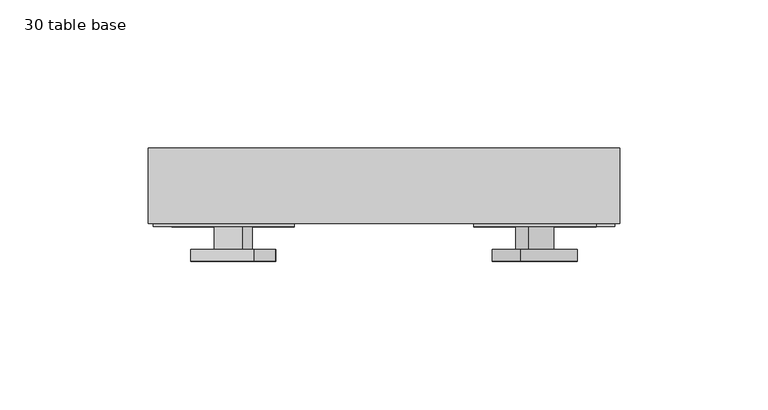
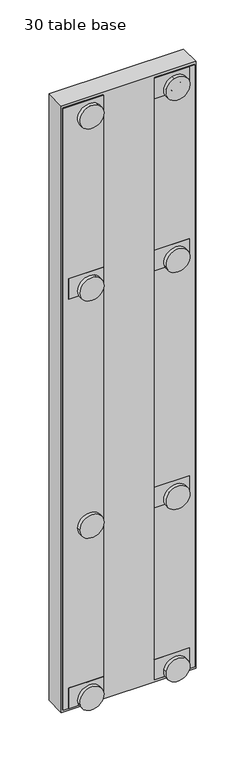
"""IFC4 building model written with IfcOpenShell, lengths in millimetres: proxy geometry, 30 table base."""

from ifc_helpers import new_model, si_unit, frame, origin, place, context, project, spatial, polyline, circle_curve, outline, extrude, source, transform, mapped, element, save
from ifc_brep_helpers import plane_surface, cylinder_surface, advanced_brep


def proxy_30_table_base_40ca9fa9(model_context):
    return source(origin(), model_context, "Body", "SolidModel", [
        extrude(outline(polyline([(109.5375, -1.016), (109.5375, 18.034), (150.8125, 18.034), (150.8125, -1.016), (109.5375, -1.016)])), frame((0.0, 0.0, -28.527375), z_axis=(0.0, 0.0, 1.0), x_axis=(1.0, 0.0, 0.0)), (0.0, 0.0, 1.0), 25.4),
        extrude(outline(polyline([(7.9375, 18.034), (49.2125, 18.034), (49.2125, -1.016), (7.9375, -1.016), (7.9375, 18.034)])), frame((0.0, 0.0, -242.839875), z_axis=(0.0, 0.0, 1.0), x_axis=(1.0, 0.0, 0.0)), (0.0, 0.0, 1.0), 25.4),
        extrude(outline(polyline([(7.9375, 18.034), (49.2125, 18.034), (49.2125, -1.016), (7.9375, -1.016), (7.9375, 18.034)])), frame((0.0, 0.0, -752.522625), z_axis=(0.0, 0.0, 1.0), x_axis=(1.0, 0.0, 0.0)), (0.0, 0.0, 1.0), 25.4),
        extrude(outline(polyline([(109.5375, -1.016), (109.5375, 18.034), (150.8125, 18.034), (150.8125, -1.016), (109.5375, -1.016)])), frame((0.0, 0.0, -242.839875), z_axis=(0.0, 0.0, 1.0), x_axis=(1.0, 0.0, 0.0)), (0.0, 0.0, 1.0), 25.4),
        extrude(outline(polyline([(1.5875, 24.384), (49.2125, 24.384), (49.2125, -1.016), (1.5875, -1.016), (1.5875, 24.384)])), frame((0.0, 0.0, -752.522625), z_axis=(0.0, 0.0, 1.0), x_axis=(1.0, 0.0, 0.0)), (0.0, 0.0, 1.0), 749.39525),
        extrude(outline(polyline([(109.5375, -1.016), (109.5375, 18.034), (150.8125, 18.034), (150.8125, -1.016), (109.5375, -1.016)])), frame((0.0, 0.0, -538.114875), z_axis=(0.0, 0.0, 1.0), x_axis=(1.0, 0.0, 0.0)), (0.0, 0.0, 1.0), 25.4),
        extrude(outline(polyline([(7.9375, 18.034), (49.2125, 18.034), (49.2125, -1.016), (7.9375, -1.016), (7.9375, 18.034)])), frame((0.0, 0.0, -538.114875), z_axis=(0.0, 0.0, 1.0), x_axis=(1.0, 0.0, 0.0)), (0.0, 0.0, 1.0), 25.4),
        extrude(outline(polyline([(109.5375, -1.016), (109.5375, 18.034), (150.8125, 18.034), (150.8125, -1.016), (109.5375, -1.016)])), frame((0.0, 0.0, -752.522625), z_axis=(0.0, 0.0, 1.0), x_axis=(1.0, 0.0, 0.0)), (0.0, 0.0, 1.0), 25.4),
        extrude(outline(polyline([(7.9375, 18.034), (49.2125, 18.034), (49.2125, -1.016), (7.9375, -1.016), (7.9375, 18.034)])), frame((0.0, 0.0, -28.527375), z_axis=(0.0, 0.0, 1.0), x_axis=(1.0, 0.0, 0.0)), (0.0, 0.0, 1.0), 25.4),
        extrude(outline(polyline([(109.5375, 24.384), (157.1625, 24.384), (157.1625, -1.016), (109.5375, -1.016), (109.5375, 24.384)])), frame((0.0, 0.0, -752.522625), z_axis=(0.0, 0.0, 1.0), x_axis=(1.0, 0.0, 0.0)), (0.0, 0.0, 1.0), 749.39525),
        advanced_brep(
        [(25.4874004, -0.79375, -21.3761792), (25.4874004, -8.73125, -21.3761792), (31.6625996, -8.73125, -10.2785708), (31.6625996, -0.79375, -10.2785708), (21.6279008, -8.73125, -28.3121845), (21.6279008, -12.7, -28.3121845), (35.5220992, -12.7, -3.3425655), (35.5220992, -8.73125, -3.3425655)],
        [
            (0, 1),
            (1, 2, circle_curve(frame((28.575, -8.73125, -15.827375), z_axis=(0.0, 0.9999999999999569, 0.0), x_axis=(-0.4862361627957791, 0.0, -0.8738274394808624)), 6.35)),
            (2, 3),
            (3, 0, circle_curve(frame((28.575, -0.79375, -15.827375), z_axis=(0.0, -0.9999999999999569, 0.0), x_axis=(-0.4862361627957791, 0.0, -0.8738274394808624)), 6.35)),
            (4, 5),
            (5, 6, circle_curve(frame((28.575, -12.7, -15.827375), z_axis=(0.0, 0.9999999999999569, 0.0), x_axis=(-0.4862361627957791, 0.0, -0.8738274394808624)), 14.2875)),
            (6, 7),
            (7, 4, circle_curve(frame((28.575, -8.73125, -15.827375), z_axis=(0.0, -0.9999999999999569, 0.0), x_axis=(-0.4862361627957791, 0.0, -0.8738274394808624)), 14.2875)),
            (7, 4, circle_curve(frame((28.575, -8.73125, -15.827375), z_axis=(0.0, 0.9999999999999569, 0.0), x_axis=(-0.4862361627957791, 0.0, -0.8738274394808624)), 14.2875)),
            (1, 2, circle_curve(frame((28.575, -8.73125, -15.827375), z_axis=(0.0, -0.9999999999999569, 0.0), x_axis=(-0.4862361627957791, 0.0, -0.8738274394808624)), 6.35)),
            (6, 5, circle_curve(frame((28.575, -12.7, -15.827375), z_axis=(0.0, 0.9999999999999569, 0.0), x_axis=(-0.4862361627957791, 0.0, -0.8738274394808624)), 14.2875)),
            (3, 0, circle_curve(frame((28.575, -0.79375, -15.827375), z_axis=(0.0, 0.9999999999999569, 0.0), x_axis=(-0.4862361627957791, 0.0, -0.8738274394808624)), 6.35)),
        ],
        [
            cylinder_surface(frame((28.575, -1.5875, -15.827375), z_axis=(0.0, -0.9999999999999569, 0.0), x_axis=(-0.4862361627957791, 0.0, -0.8738274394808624)), 6.35),
            cylinder_surface(frame((28.575, -9.525, -15.827375), z_axis=(0.0, -0.9999999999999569, 0.0), x_axis=(-0.4862361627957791, 0.0, -0.8738274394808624)), 14.2875),
            plane_surface(frame((22.0138508, -8.73125, -27.618584), z_axis=(0.0, 0.9999999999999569, 0.0), x_axis=(0.8738274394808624, 0.0, -0.4862361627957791))),
            plane_surface(frame((26.2593003, -0.79375, -19.9889782), z_axis=(0.0, 0.9999999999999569, 0.0), x_axis=(0.8738274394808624, 0.0, -0.4862361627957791))),
            plane_surface(frame((25.6803753, -12.7, -21.029379), z_axis=(0.0, -0.9999999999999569, 0.0), x_axis=(-0.8738274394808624, 0.0, 0.4862361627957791))),
        ],
        [
            (0, [[1, 2, 3, 4]]),
            (1, [[5, 6, 7, 8]]),
            (2, [[9, -8], [10, -2]]),
            (1, [[-5, -9, -7, 11]]),
            (3, [[12, -4]]),
            (0, [[-1, -12, -3, -10]]),
            (4, [[-6, -11]]),
        ],
    ),
        advanced_brep(
        [(135.2608779, -0.79375, -521.6127248), (135.2608779, -8.73125, -521.6127248), (125.0891221, -8.73125, -529.2170252), (125.0891221, -0.79375, -529.2170252), (141.6182253, -8.73125, -516.8600371), (141.6182253, -12.7, -516.8600371), (118.7317747, -12.7, -533.9697129), (118.7317747, -8.73125, -533.9697129)],
        [
            (0, 1),
            (1, 2, circle_curve(frame((130.175, -8.73125, -525.414875), z_axis=(0.0, 0.9999999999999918, 0.0), x_axis=(0.8009256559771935, 0.0, 0.5987638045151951)), 6.35)),
            (2, 3),
            (3, 0, circle_curve(frame((130.175, -0.79375, -525.414875), z_axis=(0.0, -0.9999999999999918, 0.0), x_axis=(0.8009256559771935, 0.0, 0.5987638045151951)), 6.35)),
            (4, 5),
            (5, 6, circle_curve(frame((130.175, -12.7, -525.414875), z_axis=(0.0, 0.9999999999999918, 0.0), x_axis=(0.8009256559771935, 0.0, 0.5987638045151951)), 14.2875)),
            (6, 7),
            (7, 4, circle_curve(frame((130.175, -8.73125, -525.414875), z_axis=(0.0, -0.9999999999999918, 0.0), x_axis=(0.8009256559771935, 0.0, 0.5987638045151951)), 14.2875)),
            (7, 4, circle_curve(frame((130.175, -8.73125, -525.414875), z_axis=(0.0, 0.9999999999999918, 0.0), x_axis=(0.8009256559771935, 0.0, 0.5987638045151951)), 14.2875)),
            (1, 2, circle_curve(frame((130.175, -8.73125, -525.414875), z_axis=(0.0, -0.9999999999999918, 0.0), x_axis=(0.8009256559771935, 0.0, 0.5987638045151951)), 6.35)),
            (6, 5, circle_curve(frame((130.175, -12.7, -525.414875), z_axis=(0.0, 0.9999999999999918, 0.0), x_axis=(0.8009256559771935, 0.0, 0.5987638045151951)), 14.2875)),
            (3, 0, circle_curve(frame((130.175, -0.79375, -525.414875), z_axis=(0.0, 0.9999999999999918, 0.0), x_axis=(0.8009256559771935, 0.0, 0.5987638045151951)), 6.35)),
        ],
        [
            cylinder_surface(frame((130.175, -1.5875, -525.414875), z_axis=(0.0, -0.9999999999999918, 0.0), x_axis=(0.8009256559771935, 0.0, 0.5987638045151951)), 6.35),
            cylinder_surface(frame((130.175, -9.525, -525.414875), z_axis=(0.0, -0.9999999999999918, 0.0), x_axis=(0.8009256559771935, 0.0, 0.5987638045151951)), 14.2875),
            plane_surface(frame((140.9824906, -8.73125, -517.3353059), z_axis=(0.0, 0.9999999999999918, 0.0), x_axis=(-0.5987638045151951, 0.0, 0.8009256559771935))),
            plane_surface(frame((133.9894084, -0.79375, -522.5632624), z_axis=(0.0, 0.9999999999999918, 0.0), x_axis=(-0.5987638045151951, 0.0, 0.8009256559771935))),
            plane_surface(frame((134.9430105, -12.7, -521.8503592), z_axis=(0.0, -0.9999999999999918, 0.0), x_axis=(0.5987638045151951, 0.0, -0.8009256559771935))),
        ],
        [
            (0, [[1, 2, 3, 4]]),
            (1, [[5, 6, 7, 8]]),
            (2, [[9, -8], [10, -2]]),
            (1, [[-5, -9, -7, 11]]),
            (3, [[12, -4]]),
            (0, [[-1, -12, -3, -10]]),
            (4, [[-6, -11]]),
        ],
    ),
        advanced_brep(
        [(22.3889075, -0.79375, -741.2560681), (22.3889075, -8.73125, -741.2560681), (34.7610925, -8.73125, -738.3891819), (34.7610925, -0.79375, -738.3891819), (14.6562918, -8.73125, -743.0478719), (14.6562918, -12.7, -743.0478719), (42.4937082, -12.7, -736.5973781), (42.4937082, -8.73125, -736.5973781)],
        [
            (0, 1),
            (1, 2, circle_curve(frame((28.575, -8.73125, -739.822625), z_axis=(0.0, 0.9999999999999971, 0.0), x_axis=(-0.9741878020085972, 0.0, -0.22573906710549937)), 6.35)),
            (2, 3),
            (3, 0, circle_curve(frame((28.575, -0.79375, -739.822625), z_axis=(0.0, -0.9999999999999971, 0.0), x_axis=(-0.9741878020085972, 0.0, -0.22573906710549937)), 6.35)),
            (4, 5),
            (5, 6, circle_curve(frame((28.575, -12.7, -739.822625), z_axis=(0.0, 0.9999999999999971, 0.0), x_axis=(-0.9741878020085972, 0.0, -0.22573906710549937)), 14.2875)),
            (6, 7),
            (7, 4, circle_curve(frame((28.575, -8.73125, -739.822625), z_axis=(0.0, -0.9999999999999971, 0.0), x_axis=(-0.9741878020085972, 0.0, -0.22573906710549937)), 14.2875)),
            (7, 4, circle_curve(frame((28.575, -8.73125, -739.822625), z_axis=(0.0, 0.9999999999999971, 0.0), x_axis=(-0.9741878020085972, 0.0, -0.22573906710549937)), 14.2875)),
            (1, 2, circle_curve(frame((28.575, -8.73125, -739.822625), z_axis=(0.0, -0.9999999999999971, 0.0), x_axis=(-0.9741878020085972, 0.0, -0.22573906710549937)), 6.35)),
            (6, 5, circle_curve(frame((28.575, -12.7, -739.822625), z_axis=(0.0, 0.9999999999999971, 0.0), x_axis=(-0.9741878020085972, 0.0, -0.22573906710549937)), 14.2875)),
            (3, 0, circle_curve(frame((28.575, -0.79375, -739.822625), z_axis=(0.0, 0.9999999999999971, 0.0), x_axis=(-0.9741878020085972, 0.0, -0.22573906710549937)), 6.35)),
        ],
        [
            cylinder_surface(frame((28.575, -1.5875, -739.822625), z_axis=(0.0, -0.9999999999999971, 0.0), x_axis=(-0.9741878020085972, 0.0, -0.22573906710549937)), 6.35),
            cylinder_surface(frame((28.575, -9.525, -739.822625), z_axis=(0.0, -0.9999999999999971, 0.0), x_axis=(-0.9741878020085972, 0.0, -0.22573906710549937)), 14.2875),
            plane_surface(frame((15.4295533, -8.73125, -742.8686915), z_axis=(0.0, 0.9999999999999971, 0.0), x_axis=(0.22573906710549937, 0.0, -0.9741878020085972))),
            plane_surface(frame((23.9354306, -0.79375, -740.8977073), z_axis=(0.0, 0.9999999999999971, 0.0), x_axis=(0.22573906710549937, 0.0, -0.9741878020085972))),
            plane_surface(frame((22.7755382, -12.7, -741.1664779), z_axis=(0.0, -0.9999999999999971, 0.0), x_axis=(-0.22573906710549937, 0.0, 0.9741878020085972))),
        ],
        [
            (0, [[1, 2, 3, 4]]),
            (1, [[5, 6, 7, 8]]),
            (2, [[9, -8], [10, -2]]),
            (1, [[-5, -9, -7, 11]]),
            (3, [[12, -4]]),
            (0, [[-1, -12, -3, -10]]),
            (4, [[-6, -11]]),
        ],
    ),
        advanced_brep(
        [(132.3534997, -0.79375, -21.7919906), (132.3534997, -8.73125, -21.7919906), (127.9965003, -8.73125, -9.8627594), (127.9965003, -0.79375, -9.8627594), (135.0766244, -8.73125, -29.2477601), (135.0766244, -12.7, -29.2477601), (125.2733756, -12.7, -2.4069899), (125.2733756, -8.73125, -2.4069899)],
        [
            (0, 1),
            (1, 2, circle_curve(frame((130.175, -8.73125, -15.827375), z_axis=(0.0, 1.0000000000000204, 0.0), x_axis=(0.34307082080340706, 0.0, -0.9393095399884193)), 6.35)),
            (2, 3),
            (3, 0, circle_curve(frame((130.175, -0.79375, -15.827375), z_axis=(0.0, -1.0000000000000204, 0.0), x_axis=(0.34307082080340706, 0.0, -0.9393095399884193)), 6.35)),
            (4, 5),
            (5, 6, circle_curve(frame((130.175, -12.7, -15.827375), z_axis=(0.0, 1.0000000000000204, 0.0), x_axis=(0.34307082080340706, 0.0, -0.9393095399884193)), 14.2875)),
            (6, 7),
            (7, 4, circle_curve(frame((130.175, -8.73125, -15.827375), z_axis=(0.0, -1.0000000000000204, 0.0), x_axis=(0.34307082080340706, 0.0, -0.9393095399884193)), 14.2875)),
            (7, 4, circle_curve(frame((130.175, -8.73125, -15.827375), z_axis=(0.0, 1.0000000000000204, 0.0), x_axis=(0.34307082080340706, 0.0, -0.9393095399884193)), 14.2875)),
            (1, 2, circle_curve(frame((130.175, -8.73125, -15.827375), z_axis=(0.0, -1.0000000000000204, 0.0), x_axis=(0.34307082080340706, 0.0, -0.9393095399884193)), 6.35)),
            (6, 5, circle_curve(frame((130.175, -12.7, -15.827375), z_axis=(0.0, 1.0000000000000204, 0.0), x_axis=(0.34307082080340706, 0.0, -0.9393095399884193)), 14.2875)),
            (3, 0, circle_curve(frame((130.175, -0.79375, -15.827375), z_axis=(0.0, 1.0000000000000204, 0.0), x_axis=(0.34307082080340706, 0.0, -0.9393095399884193)), 6.35)),
        ],
        [
            cylinder_surface(frame((130.175, -1.5875, -15.827375), z_axis=(0.0, -1.0000000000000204, 0.0), x_axis=(0.34307082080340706, 0.0, -0.9393095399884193)), 6.35),
            cylinder_surface(frame((130.175, -9.525, -15.827375), z_axis=(0.0, -1.0000000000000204, 0.0), x_axis=(0.34307082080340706, 0.0, -0.9393095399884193)), 14.2875),
            plane_surface(frame((134.8043119, -8.73125, -28.5021831), z_axis=(0.0, 1.0000000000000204, 0.0), x_axis=(0.9393095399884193, 0.0, 0.34307082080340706))),
            plane_surface(frame((131.8088748, -0.79375, -20.3008367), z_axis=(0.0, 1.0000000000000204, 0.0), x_axis=(0.9393095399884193, 0.0, 0.34307082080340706))),
            plane_surface(frame((132.2173435, -12.7, -21.4192021), z_axis=(0.0, -1.0000000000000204, 0.0), x_axis=(-0.9393095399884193, 0.0, -0.34307082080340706))),
        ],
        [
            (0, [[1, 2, 3, 4]]),
            (1, [[5, 6, 7, 8]]),
            (2, [[9, -8], [10, -2]]),
            (1, [[-5, -9, -7, 11]]),
            (3, [[12, -4]]),
            (0, [[-1, -12, -3, -10]]),
            (4, [[-6, -11]]),
        ],
    ),
        advanced_brep(
        [(30.9865519, -0.79375, -224.2656161), (30.9865519, -8.73125, -224.2656161), (26.1634481, -8.73125, -236.0141339), (26.1634481, -0.79375, -236.0141339), (34.0009918, -8.73125, -216.9227925), (34.0009918, -12.7, -216.9227925), (23.1490082, -12.7, -243.3569575), (23.1490082, -8.73125, -243.3569575)],
        [
            (0, 1),
            (1, 2, circle_curve(frame((28.575, -8.73125, -230.139875), z_axis=(0.0, 1.0000000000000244, 0.0), x_axis=(0.3797719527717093, 0.0, 0.9250801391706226)), 6.35)),
            (2, 3),
            (3, 0, circle_curve(frame((28.575, -0.79375, -230.139875), z_axis=(0.0, -1.0000000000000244, 0.0), x_axis=(0.3797719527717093, 0.0, 0.9250801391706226)), 6.35)),
            (4, 5),
            (5, 6, circle_curve(frame((28.575, -12.7, -230.139875), z_axis=(0.0, 1.0000000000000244, 0.0), x_axis=(0.3797719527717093, 0.0, 0.9250801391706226)), 14.2875)),
            (6, 7),
            (7, 4, circle_curve(frame((28.575, -8.73125, -230.139875), z_axis=(0.0, -1.0000000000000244, 0.0), x_axis=(0.3797719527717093, 0.0, 0.9250801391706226)), 14.2875)),
            (7, 4, circle_curve(frame((28.575, -8.73125, -230.139875), z_axis=(0.0, 1.0000000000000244, 0.0), x_axis=(0.3797719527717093, 0.0, 0.9250801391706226)), 14.2875)),
            (1, 2, circle_curve(frame((28.575, -8.73125, -230.139875), z_axis=(0.0, -1.0000000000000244, 0.0), x_axis=(0.3797719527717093, 0.0, 0.9250801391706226)), 6.35)),
            (6, 5, circle_curve(frame((28.575, -12.7, -230.139875), z_axis=(0.0, 1.0000000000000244, 0.0), x_axis=(0.3797719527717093, 0.0, 0.9250801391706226)), 14.2875)),
            (3, 0, circle_curve(frame((28.575, -0.79375, -230.139875), z_axis=(0.0, 1.0000000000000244, 0.0), x_axis=(0.3797719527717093, 0.0, 0.9250801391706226)), 6.35)),
        ],
        [
            cylinder_surface(frame((28.575, -1.5875, -230.139875), z_axis=(0.0, -1.0000000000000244, 0.0), x_axis=(0.3797719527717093, 0.0, 0.9250801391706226)), 6.35),
            cylinder_surface(frame((28.575, -9.525, -230.139875), z_axis=(0.0, -1.0000000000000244, 0.0), x_axis=(0.3797719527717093, 0.0, 0.9250801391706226)), 14.2875),
            plane_surface(frame((33.6995478, -8.73125, -217.6570749), z_axis=(0.0, 1.0000000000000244, 0.0), x_axis=(-0.9250801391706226, 0.0, 0.3797719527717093))),
            plane_surface(frame((30.3836639, -0.79375, -225.7341808), z_axis=(0.0, 1.0000000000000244, 0.0), x_axis=(-0.9250801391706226, 0.0, 0.3797719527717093))),
            plane_surface(frame((30.8358299, -12.7, -224.6327573), z_axis=(0.0, -1.0000000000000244, 0.0), x_axis=(0.9250801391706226, 0.0, -0.3797719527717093))),
        ],
        [
            (0, [[1, 2, 3, 4]]),
            (1, [[5, 6, 7, 8]]),
            (2, [[9, -8], [10, -2]]),
            (1, [[-5, -9, -7, 11]]),
            (3, [[12, -4]]),
            (0, [[-1, -12, -3, -10]]),
            (4, [[-6, -11]]),
        ],
    ),
        advanced_brep(
        [(136.2215906, -0.79375, -228.2004828), (136.2215906, -8.73125, -228.2004828), (124.1284094, -8.73125, -232.0792672), (124.1284094, -0.79375, -232.0792672), (143.7798289, -8.73125, -225.7762426), (143.7798289, -12.7, -225.7762426), (116.5701711, -12.7, -234.5035074), (116.5701711, -8.73125, -234.5035074)],
        [
            (0, 1),
            (1, 2, circle_curve(frame((130.175, -8.73125, -230.139875), z_axis=(0.0, 1.0000000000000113, 0.0), x_axis=(0.9522189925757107, 0.0, 0.30541609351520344)), 6.35)),
            (2, 3),
            (3, 0, circle_curve(frame((130.175, -0.79375, -230.139875), z_axis=(0.0, -1.0000000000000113, 0.0), x_axis=(0.9522189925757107, 0.0, 0.30541609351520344)), 6.35)),
            (4, 5),
            (5, 6, circle_curve(frame((130.175, -12.7, -230.139875), z_axis=(0.0, 1.0000000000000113, 0.0), x_axis=(0.9522189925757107, 0.0, 0.30541609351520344)), 14.2875)),
            (6, 7),
            (7, 4, circle_curve(frame((130.175, -8.73125, -230.139875), z_axis=(0.0, -1.0000000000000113, 0.0), x_axis=(0.9522189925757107, 0.0, 0.30541609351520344)), 14.2875)),
            (7, 4, circle_curve(frame((130.175, -8.73125, -230.139875), z_axis=(0.0, 1.0000000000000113, 0.0), x_axis=(0.9522189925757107, 0.0, 0.30541609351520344)), 14.2875)),
            (1, 2, circle_curve(frame((130.175, -8.73125, -230.139875), z_axis=(0.0, -1.0000000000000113, 0.0), x_axis=(0.9522189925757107, 0.0, 0.30541609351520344)), 6.35)),
            (6, 5, circle_curve(frame((130.175, -12.7, -230.139875), z_axis=(0.0, 1.0000000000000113, 0.0), x_axis=(0.9522189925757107, 0.0, 0.30541609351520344)), 14.2875)),
            (3, 0, circle_curve(frame((130.175, -0.79375, -230.139875), z_axis=(0.0, 1.0000000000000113, 0.0), x_axis=(0.9522189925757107, 0.0, 0.30541609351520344)), 6.35)),
        ],
        [
            cylinder_surface(frame((130.175, -1.5875, -230.139875), z_axis=(0.0, -1.0000000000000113, 0.0), x_axis=(0.9522189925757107, 0.0, 0.30541609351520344)), 6.35),
            cylinder_surface(frame((130.175, -9.525, -230.139875), z_axis=(0.0, -1.0000000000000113, 0.0), x_axis=(0.9522189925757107, 0.0, 0.30541609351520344)), 14.2875),
            plane_surface(frame((143.024005, -8.73125, -226.0186666), z_axis=(0.0, 1.0000000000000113, 0.0), x_axis=(-0.30541609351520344, 0.0, 0.9522189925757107))),
            plane_surface(frame((134.709943, -0.79375, -228.6853309), z_axis=(0.0, 1.0000000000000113, 0.0), x_axis=(-0.30541609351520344, 0.0, 0.9522189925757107))),
            plane_surface(frame((135.8436787, -12.7, -228.3216948), z_axis=(0.0, -1.0000000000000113, 0.0), x_axis=(0.30541609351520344, 0.0, -0.9522189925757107))),
        ],
        [
            (0, [[1, 2, 3, 4]]),
            (1, [[5, 6, 7, 8]]),
            (2, [[9, -8], [10, -2]]),
            (1, [[-5, -9, -7, 11]]),
            (3, [[12, -4]]),
            (0, [[-1, -12, -3, -10]]),
            (4, [[-6, -11]]),
        ],
    ),
        advanced_brep(
        [(123.9709096, -0.79375, -738.4691989), (123.9709096, -8.73125, -738.4691989), (136.3790904, -8.73125, -741.1760511), (136.3790904, -0.79375, -741.1760511), (116.2157966, -8.73125, -736.7774163), (116.2157966, -12.7, -736.7774163), (144.1342034, -12.7, -742.8678337), (144.1342034, -8.73125, -742.8678337)],
        [
            (0, 1),
            (1, 2, circle_curve(frame((130.175, -8.73125, -739.822625), z_axis=(0.0, 1.0000000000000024, 0.0), x_axis=(-0.9770221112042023, 0.0, 0.21313796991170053)), 6.35)),
            (2, 3),
            (3, 0, circle_curve(frame((130.175, -0.79375, -739.822625), z_axis=(0.0, -1.0000000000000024, 0.0), x_axis=(-0.9770221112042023, 0.0, 0.21313796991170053)), 6.35)),
            (4, 5),
            (5, 6, circle_curve(frame((130.175, -12.7, -739.822625), z_axis=(0.0, 1.0000000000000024, 0.0), x_axis=(-0.9770221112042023, 0.0, 0.21313796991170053)), 14.2875)),
            (6, 7),
            (7, 4, circle_curve(frame((130.175, -8.73125, -739.822625), z_axis=(0.0, -1.0000000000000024, 0.0), x_axis=(-0.9770221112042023, 0.0, 0.21313796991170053)), 14.2875)),
            (7, 4, circle_curve(frame((130.175, -8.73125, -739.822625), z_axis=(0.0, 1.0000000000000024, 0.0), x_axis=(-0.9770221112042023, 0.0, 0.21313796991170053)), 14.2875)),
            (1, 2, circle_curve(frame((130.175, -8.73125, -739.822625), z_axis=(0.0, -1.0000000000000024, 0.0), x_axis=(-0.9770221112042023, 0.0, 0.21313796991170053)), 6.35)),
            (6, 5, circle_curve(frame((130.175, -12.7, -739.822625), z_axis=(0.0, 1.0000000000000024, 0.0), x_axis=(-0.9770221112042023, 0.0, 0.21313796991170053)), 14.2875)),
            (3, 0, circle_curve(frame((130.175, -0.79375, -739.822625), z_axis=(0.0, 1.0000000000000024, 0.0), x_axis=(-0.9770221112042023, 0.0, 0.21313796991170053)), 6.35)),
        ],
        [
            cylinder_surface(frame((130.175, -1.5875, -739.822625), z_axis=(0.0, -1.0000000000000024, 0.0), x_axis=(-0.9770221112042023, 0.0, 0.21313796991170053)), 6.35),
            cylinder_surface(frame((130.175, -9.525, -739.822625), z_axis=(0.0, -1.0000000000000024, 0.0), x_axis=(-0.9770221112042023, 0.0, 0.21313796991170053)), 14.2875),
            plane_surface(frame((116.9913079, -8.73125, -736.9465945), z_axis=(0.0, 1.0000000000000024, 0.0), x_axis=(-0.21313796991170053, 0.0, -0.9770221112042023))),
            plane_surface(frame((125.5219322, -0.79375, -738.8075554), z_axis=(0.0, 1.0000000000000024, 0.0), x_axis=(-0.21313796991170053, 0.0, -0.9770221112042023))),
            plane_surface(frame((124.3586652, -12.7, -738.553788), z_axis=(0.0, -1.0000000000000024, 0.0), x_axis=(0.21313796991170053, 0.0, 0.9770221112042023))),
        ],
        [
            (0, [[1, 2, 3, 4]]),
            (1, [[5, 6, 7, 8]]),
            (2, [[9, -8], [10, -2]]),
            (1, [[-5, -9, -7, 11]]),
            (3, [[12, -4]]),
            (0, [[-1, -12, -3, -10]]),
            (4, [[-6, -11]]),
        ],
    ),
        advanced_brep(
        [(34.925, -0.79375, -525.414875), (34.925, -8.73125, -525.414875), (22.225, -8.73125, -525.414875), (22.225, -0.79375, -525.414875), (42.8625, -8.73125, -525.414875), (42.8625, -12.7, -525.414875), (14.2875, -12.7, -525.414875), (14.2875, -8.73125, -525.414875)],
        [
            (0, 1),
            (1, 2, circle_curve(frame((28.575, -8.73125, -525.414875), z_axis=(0.0, 1.0, 0.0), x_axis=(1.0, 0.0, 0.0)), 6.35)),
            (2, 3),
            (3, 0, circle_curve(frame((28.575, -0.79375, -525.414875), z_axis=(0.0, -1.0, 0.0), x_axis=(1.0, 0.0, 0.0)), 6.35)),
            (4, 5),
            (5, 6, circle_curve(frame((28.575, -12.7, -525.414875), z_axis=(0.0, 1.0, 0.0), x_axis=(1.0, 0.0, 0.0)), 14.2875)),
            (6, 7),
            (7, 4, circle_curve(frame((28.575, -8.73125, -525.414875), z_axis=(0.0, -1.0, 0.0), x_axis=(1.0, 0.0, 0.0)), 14.2875)),
            (7, 4, circle_curve(frame((28.575, -8.73125, -525.414875), z_axis=(0.0, 1.0, 0.0), x_axis=(1.0, 0.0, 0.0)), 14.2875)),
            (1, 2, circle_curve(frame((28.575, -8.73125, -525.414875), z_axis=(0.0, -1.0, 0.0), x_axis=(1.0, 0.0, 0.0)), 6.35)),
            (6, 5, circle_curve(frame((28.575, -12.7, -525.414875), z_axis=(0.0, 1.0, 0.0), x_axis=(1.0, 0.0, 0.0)), 14.2875)),
            (3, 0, circle_curve(frame((28.575, -0.79375, -525.414875), z_axis=(0.0, 1.0, 0.0), x_axis=(1.0, 0.0, 0.0)), 6.35)),
        ],
        [
            cylinder_surface(frame((28.575, -1.5875, -525.414875), z_axis=(0.0, -1.0, 0.0), x_axis=(1.0, 0.0, 0.0)), 6.35),
            cylinder_surface(frame((28.575, -9.525, -525.414875), z_axis=(0.0, -1.0, 0.0), x_axis=(1.0, 0.0, 0.0)), 14.2875),
            plane_surface(frame((42.06875, -8.73125, -525.414875), z_axis=(0.0, 1.0, 0.0), x_axis=(0.0, 0.0, 1.0))),
            plane_surface(frame((33.3375, -0.79375, -525.414875), z_axis=(0.0, 1.0, 0.0), x_axis=(0.0, 0.0, 1.0))),
            plane_surface(frame((34.528125, -12.7, -525.414875), z_axis=(0.0, -1.0, 0.0), x_axis=(0.0, 0.0, -1.0))),
        ],
        [
            (0, [[1, 2, 3, 4]]),
            (1, [[5, 6, 7, 8]]),
            (2, [[9, -8], [10, -2]]),
            (1, [[-5, -9, -7, 11]]),
            (3, [[12, -4]]),
            (0, [[-1, -12, -3, -10]]),
            (4, [[-6, -11]]),
        ],
    ),
        extrude(outline(polyline([(158.75, 25.4), (158.75, 0.0), (0.0, 0.0), (0.0, 25.4), (158.75, 25.4)])), frame((0.0, 0.0, -755.65), z_axis=(0.0, 0.0, 1.0), x_axis=(1.0, 0.0, 0.0)), (0.0, 0.0, 1.0), 755.65),
    ])


if __name__ == "__main__":
    model = new_model("IFC4")
    model_context = context("Model", 3, world=origin())
    ifc_project = project(units=[si_unit("LENGTHUNIT", "METRE", prefix="MILLI")], contexts=[model_context])
    site = spatial("IfcSite", under=ifc_project)
    building = spatial("IfcBuilding", under=site)
    placement = place(None, origin())
    proxy_30_table_base_shape = proxy_30_table_base_40ca9fa9(model_context)
    element("IfcBuildingElementProxy", 1, Name="30 table base", ObjectType="30 table base", at=placement, inside=building, context=model_context, shape_type="MappedRepresentation", body=[
        mapped(proxy_30_table_base_shape, transform((0.0, 0.0, 0.0), x_axis=(1.0, 0.0, 0.0), y_axis=(0.0, 1.0, 0.0), z_axis=(0.0, 0.0, 1.0))),
    ])
    save(model, "model.ifc")
